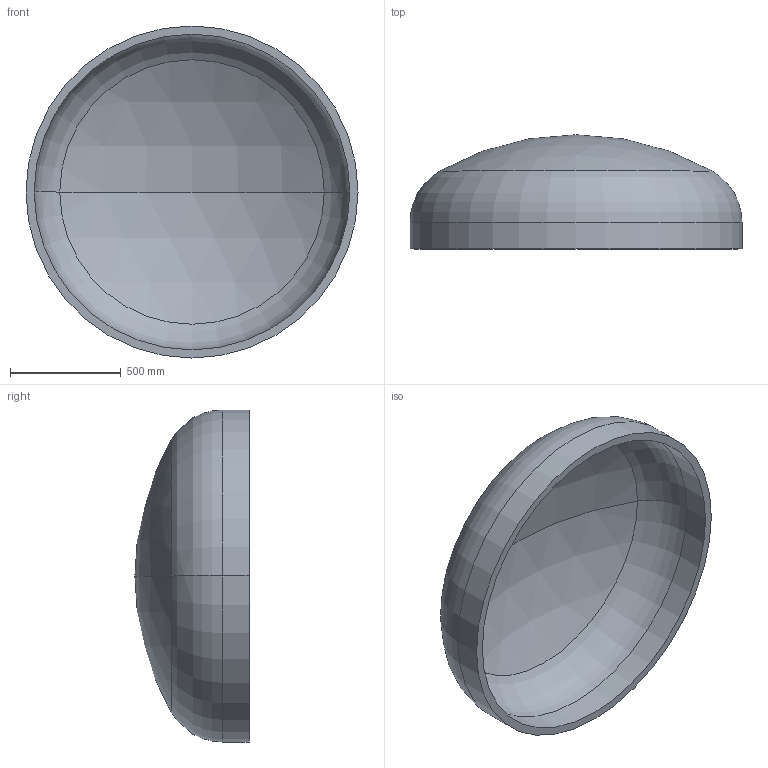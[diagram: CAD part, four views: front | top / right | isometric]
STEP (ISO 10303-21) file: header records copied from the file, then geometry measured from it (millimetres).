
FILE_DESCRIPTION (( 'STEP AP203' ), '1' );
FILE_NAME ('DIN 28013 Korbbogenform_-_Boden DIN 28013 - 1500 x 120 - I - s=37.step', '2016-07-01T10:44:38', ( '' ), ( '' ), 'SwSTEP 2.0', 'SolidWorks 2013', '' );
FILE_SCHEMA (( 'CONFIG_CONTROL_DESIGN' ));
Length unit declared in the file: millimetre
Products named in the file (1): DIN 28013 Korbbogenform_-_Boden DIN 28013 - 1500 x 120 - I - s=37
Bounding box: 1500 x 515.8 x 1500 mm (x, y, z)
Volume: 108003945.2 mm3; surface area: 6010974.1 mm2
Topology: 1 solids, 1 shells, 13 faces, 24 edges, 14 vertices
Faces by surface type: torus 4, cylinder 4, sphere 4, plane 1
Entity records: 407 total; most frequent: DIRECTION 72, CARTESIAN_POINT 52, ORIENTED_EDGE 48, AXIS2_PLACEMENT_3D 34, EDGE_CURVE 24, CIRCLE 20, VERTEX_POINT 14, EDGE_LOOP 14
